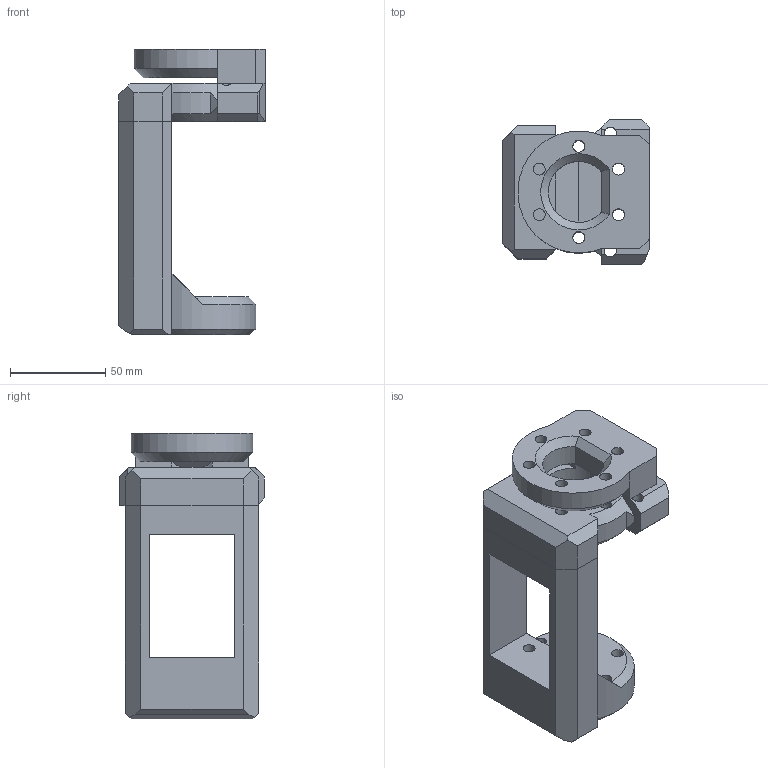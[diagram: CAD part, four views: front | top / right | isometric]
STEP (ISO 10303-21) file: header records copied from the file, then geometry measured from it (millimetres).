
FILE_DESCRIPTION(/* description */ (''),/* implementation_level */ '2;1');
FILE_NAME(/* name */ 'elbow-other-part.step',/* time_stamp */ '2026-06-03T23:48:52+01:00',/* author */ (''),/* organization */ (''),/* preprocessor_version */ 'ST-DEVELOPER v20.1',/* originating_system */ 'Autodesk Translation Framework v15.8.0.0',/* authorisation */ '');
FILE_SCHEMA (('AUTOMOTIVE_DESIGN { 1 0 10303 214 3 1 1 }'));
Length unit declared in the file: millimetre
Products named in the file (1): elbow-other-part
Bounding box: 77 x 76 x 150 mm (x, y, z)
Volume: 297285.3 mm3; surface area: 60361.9 mm2
Topology: 2 solids, 2 shells, 98 faces, 308 edges, 200 vertices
Faces by surface type: plane 65, cylinder 24, cone 9
Full cylindrical faces by diameter (mm): 6.3 x18, 32 x1
Entity records: 3551 total; most frequent: CARTESIAN_POINT 711, ORIENTED_EDGE 616, DIRECTION 565, EDGE_CURVE 308, VERTEX_POINT 200, LINE 189, VECTOR 189, AXIS2_PLACEMENT_3D 188
